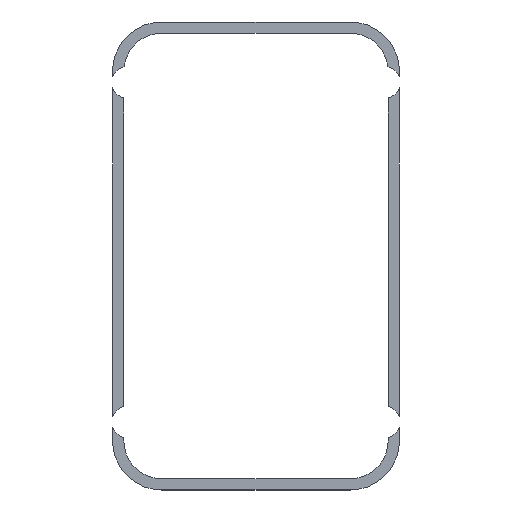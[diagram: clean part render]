
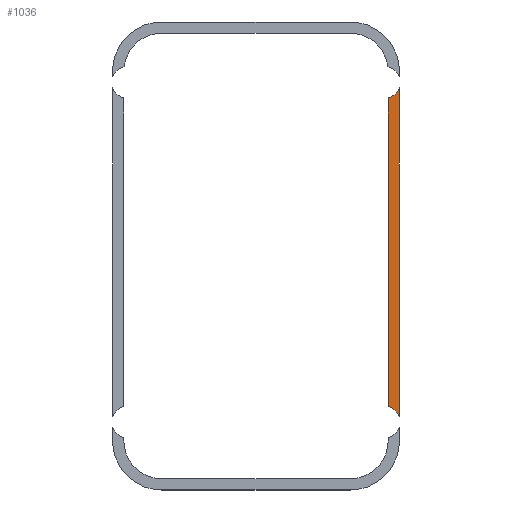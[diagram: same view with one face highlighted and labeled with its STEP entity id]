
A CAD part, top view. The second image highlights one B-rep face of the part: STEP entity #1036.
In plain terms, the highlighted planar face has unit normal (0, 0, 1).
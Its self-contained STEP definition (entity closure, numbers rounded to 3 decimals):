
#1036 = ADVANCED_FACE('',(#1037),#1051,.T.);
#1037 = FACE_BOUND('',#1038,.T.);
#1038 = EDGE_LOOP('',(#1039,#1072,#1105,#1133));
#1039 = ORIENTED_EDGE('',*,*,#1040,.F.);
#1040 = EDGE_CURVE('',#1041,#1043,#1045,.T.);
#1041 = VERTEX_POINT('',#1042);
#1042 = CARTESIAN_POINT('',(35.,-39.869,-12.4));
#1043 = VERTEX_POINT('',#1044);
#1044 = CARTESIAN_POINT('',(35.,41.869,-12.4));
#1045 = SURFACE_CURVE('',#1046,(#1050,#1061),.PCURVE_S1.);
#1046 = LINE('',#1047,#1048);
#1047 = CARTESIAN_POINT('',(35.,-60.5,-12.4));
#1048 = VECTOR('',#1049,1.);
#1049 = DIRECTION('',(0.,1.,0.));
#1050 = PCURVE('',#1051,#1056);
#1051 = PLANE('',#1052);
#1052 = AXIS2_PLACEMENT_3D('',#1053,#1054,#1055);
#1053 = CARTESIAN_POINT('',(-38.,-62.,-12.4));
#1054 = DIRECTION('',(0.,0.,1.));
#1055 = DIRECTION('',(1.,0.,0.));
#1056 = DEFINITIONAL_REPRESENTATION('',(#1057),#1060);
#1057 = B_SPLINE_CURVE_WITH_KNOTS('',1,(#1058,#1059),.UNSPECIFIED.,.F.,
  .F.,(2,2),(11.5,109.5),.PIECEWISE_BEZIER_KNOTS.);
#1058 = CARTESIAN_POINT('',(73.,13.));
#1059 = CARTESIAN_POINT('',(73.,111.));
#1060 = ( GEOMETRIC_REPRESENTATION_CONTEXT(2) 
PARAMETRIC_REPRESENTATION_CONTEXT() REPRESENTATION_CONTEXT('2D SPACE',''
  ) );
#1061 = PCURVE('',#1062,#1067);
#1062 = PLANE('',#1063);
#1063 = AXIS2_PLACEMENT_3D('',#1064,#1065,#1066);
#1064 = CARTESIAN_POINT('',(35.,-59.,-12.52));
#1065 = DIRECTION('',(1.,0.,0.));
#1066 = DIRECTION('',(0.,0.,1.));
#1067 = DEFINITIONAL_REPRESENTATION('',(#1068),#1071);
#1068 = B_SPLINE_CURVE_WITH_KNOTS('',1,(#1069,#1070),.UNSPECIFIED.,.F.,
  .F.,(2,2),(11.5,109.5),.PIECEWISE_BEZIER_KNOTS.);
#1069 = CARTESIAN_POINT('',(0.12,-10.));
#1070 = CARTESIAN_POINT('',(0.12,-108.));
#1071 = ( GEOMETRIC_REPRESENTATION_CONTEXT(2) 
PARAMETRIC_REPRESENTATION_CONTEXT() REPRESENTATION_CONTEXT('2D SPACE',''
  ) );
#1072 = ORIENTED_EDGE('',*,*,#1073,.T.);
#1073 = EDGE_CURVE('',#1041,#1074,#1076,.T.);
#1074 = VERTEX_POINT('',#1075);
#1075 = CARTESIAN_POINT('',(38.,-42.564,-12.4));
#1076 = SURFACE_CURVE('',#1077,(#1082,#1093),.PCURVE_S1.);
#1077 = CIRCLE('',#1078,4.25);
#1078 = AXIS2_PLACEMENT_3D('',#1079,#1080,#1081);
#1079 = CARTESIAN_POINT('',(34.,-44.,-12.4));
#1080 = DIRECTION('',(0.,0.,-1.));
#1081 = DIRECTION('',(1.,0.,0.));
#1082 = PCURVE('',#1051,#1083);
#1083 = DEFINITIONAL_REPRESENTATION('',(#1084),#1092);
#1084 = ( BOUNDED_CURVE() B_SPLINE_CURVE(2,(#1085,#1086,#1087,#1088,
#1089,#1090,#1091),.UNSPECIFIED.,.T.,.F.) B_SPLINE_CURVE_WITH_KNOTS((1,2
    ,2,2,2,1),(-2.094,0.,2.094,4.189,
6.283,8.378),.UNSPECIFIED.) CURVE() 
GEOMETRIC_REPRESENTATION_ITEM() RATIONAL_B_SPLINE_CURVE((1.,0.5,1.,0.5,
1.,0.5,1.)) REPRESENTATION_ITEM('') );
#1085 = CARTESIAN_POINT('',(76.25,18.));
#1086 = CARTESIAN_POINT('',(76.25,10.639));
#1087 = CARTESIAN_POINT('',(69.875,14.319));
#1088 = CARTESIAN_POINT('',(63.5,18.));
#1089 = CARTESIAN_POINT('',(69.875,21.681));
#1090 = CARTESIAN_POINT('',(76.25,25.361));
#1091 = CARTESIAN_POINT('',(76.25,18.));
#1092 = ( GEOMETRIC_REPRESENTATION_CONTEXT(2) 
PARAMETRIC_REPRESENTATION_CONTEXT() REPRESENTATION_CONTEXT('2D SPACE',''
  ) );
#1093 = PCURVE('',#1094,#1099);
#1094 = CYLINDRICAL_SURFACE('',#1095,4.25);
#1095 = AXIS2_PLACEMENT_3D('',#1096,#1097,#1098);
#1096 = CARTESIAN_POINT('',(34.,-44.,-12.6));
#1097 = DIRECTION('',(-0.,-0.,-1.));
#1098 = DIRECTION('',(1.,0.,0.));
#1099 = DEFINITIONAL_REPRESENTATION('',(#1100),#1104);
#1100 = LINE('',#1101,#1102);
#1101 = CARTESIAN_POINT('',(-6.283,-0.2));
#1102 = VECTOR('',#1103,1.);
#1103 = DIRECTION('',(1.,-0.));
#1104 = ( GEOMETRIC_REPRESENTATION_CONTEXT(2) 
PARAMETRIC_REPRESENTATION_CONTEXT() REPRESENTATION_CONTEXT('2D SPACE',''
  ) );
#1105 = ORIENTED_EDGE('',*,*,#1106,.T.);
#1106 = EDGE_CURVE('',#1074,#1107,#1109,.T.);
#1107 = VERTEX_POINT('',#1108);
#1108 = CARTESIAN_POINT('',(38.,44.564,-12.4));
#1109 = SURFACE_CURVE('',#1110,(#1114,#1121),.PCURVE_S1.);
#1110 = LINE('',#1111,#1112);
#1111 = CARTESIAN_POINT('',(38.,-62.,-12.4));
#1112 = VECTOR('',#1113,1.);
#1113 = DIRECTION('',(0.,1.,0.));
#1114 = PCURVE('',#1051,#1115);
#1115 = DEFINITIONAL_REPRESENTATION('',(#1116),#1120);
#1116 = LINE('',#1117,#1118);
#1117 = CARTESIAN_POINT('',(76.,0.));
#1118 = VECTOR('',#1119,1.);
#1119 = DIRECTION('',(0.,1.));
#1120 = ( GEOMETRIC_REPRESENTATION_CONTEXT(2) 
PARAMETRIC_REPRESENTATION_CONTEXT() REPRESENTATION_CONTEXT('2D SPACE',''
  ) );
#1121 = PCURVE('',#1122,#1127);
#1122 = PLANE('',#1123);
#1123 = AXIS2_PLACEMENT_3D('',#1124,#1125,#1126);
#1124 = CARTESIAN_POINT('',(38.,-62.,-12.5));
#1125 = DIRECTION('',(1.,0.,0.));
#1126 = DIRECTION('',(0.,0.,1.));
#1127 = DEFINITIONAL_REPRESENTATION('',(#1128),#1132);
#1128 = LINE('',#1129,#1130);
#1129 = CARTESIAN_POINT('',(0.1,0.));
#1130 = VECTOR('',#1131,1.);
#1131 = DIRECTION('',(0.,-1.));
#1132 = ( GEOMETRIC_REPRESENTATION_CONTEXT(2) 
PARAMETRIC_REPRESENTATION_CONTEXT() REPRESENTATION_CONTEXT('2D SPACE',''
  ) );
#1133 = ORIENTED_EDGE('',*,*,#1134,.T.);
#1134 = EDGE_CURVE('',#1107,#1043,#1135,.T.);
#1135 = SURFACE_CURVE('',#1136,(#1141,#1152),.PCURVE_S1.);
#1136 = CIRCLE('',#1137,4.25);
#1137 = AXIS2_PLACEMENT_3D('',#1138,#1139,#1140);
#1138 = CARTESIAN_POINT('',(34.,46.,-12.4));
#1139 = DIRECTION('',(0.,0.,-1.));
#1140 = DIRECTION('',(1.,0.,0.));
#1141 = PCURVE('',#1051,#1142);
#1142 = DEFINITIONAL_REPRESENTATION('',(#1143),#1151);
#1143 = ( BOUNDED_CURVE() B_SPLINE_CURVE(2,(#1144,#1145,#1146,#1147,
#1148,#1149,#1150),.UNSPECIFIED.,.T.,.F.) B_SPLINE_CURVE_WITH_KNOTS((1,2
    ,2,2,2,1),(-2.094,0.,2.094,4.189,
6.283,8.378),.UNSPECIFIED.) CURVE() 
GEOMETRIC_REPRESENTATION_ITEM() RATIONAL_B_SPLINE_CURVE((1.,0.5,1.,0.5,
1.,0.5,1.)) REPRESENTATION_ITEM('') );
#1144 = CARTESIAN_POINT('',(76.25,108.));
#1145 = CARTESIAN_POINT('',(76.25,100.639));
#1146 = CARTESIAN_POINT('',(69.875,104.319));
#1147 = CARTESIAN_POINT('',(63.5,108.));
#1148 = CARTESIAN_POINT('',(69.875,111.681));
#1149 = CARTESIAN_POINT('',(76.25,115.361));
#1150 = CARTESIAN_POINT('',(76.25,108.));
#1151 = ( GEOMETRIC_REPRESENTATION_CONTEXT(2) 
PARAMETRIC_REPRESENTATION_CONTEXT() REPRESENTATION_CONTEXT('2D SPACE',''
  ) );
#1152 = PCURVE('',#1153,#1158);
#1153 = CYLINDRICAL_SURFACE('',#1154,4.25);
#1154 = AXIS2_PLACEMENT_3D('',#1155,#1156,#1157);
#1155 = CARTESIAN_POINT('',(34.,46.,-12.6));
#1156 = DIRECTION('',(-0.,-0.,-1.));
#1157 = DIRECTION('',(1.,0.,0.));
#1158 = DEFINITIONAL_REPRESENTATION('',(#1159),#1163);
#1159 = LINE('',#1160,#1161);
#1160 = CARTESIAN_POINT('',(-6.283,-0.2));
#1161 = VECTOR('',#1162,1.);
#1162 = DIRECTION('',(1.,-0.));
#1163 = ( GEOMETRIC_REPRESENTATION_CONTEXT(2) 
PARAMETRIC_REPRESENTATION_CONTEXT() REPRESENTATION_CONTEXT('2D SPACE',''
  ) );
